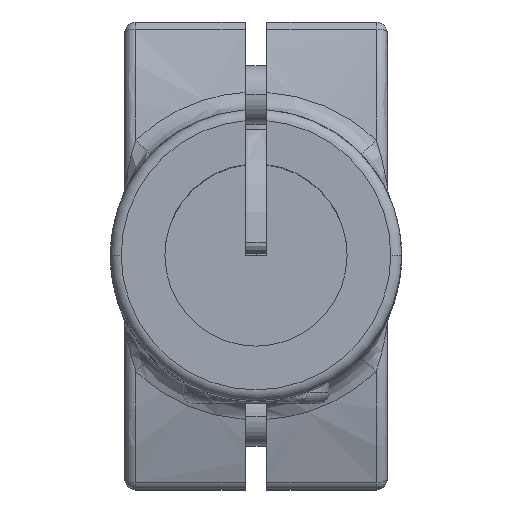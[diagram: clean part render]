
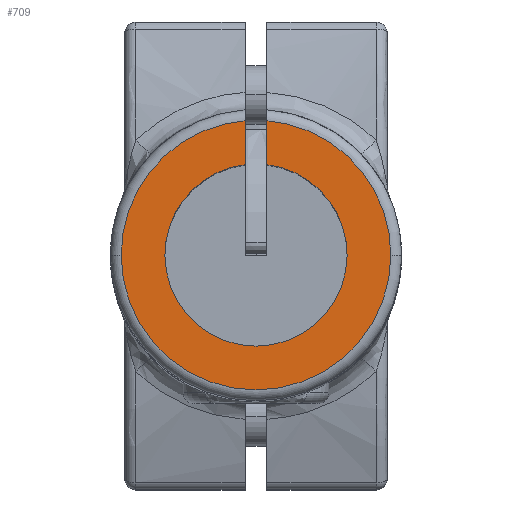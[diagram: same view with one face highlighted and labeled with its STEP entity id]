
A CAD part, top view. The second image highlights one B-rep face of the part: STEP entity #709.
In plain terms, the highlighted planar face has unit normal (0, 0, 1) as drawn and (0, 0, -1) by its records, which use the part's own axes.
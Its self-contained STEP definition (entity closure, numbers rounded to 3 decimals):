
#208 = EDGE_CURVE ( 'NONE', #1172, #15016, #11454, .T. ) ;
#272 = VECTOR ( 'NONE', #5805, 1000. ) ;
#709 = ADVANCED_FACE ( 'NONE', ( #5896 ), #2865, .F. ) ;
#1165 = CARTESIAN_POINT ( 'NONE',  ( 1.5, 0., 0. ) ) ;
#1172 = VERTEX_POINT ( 'NONE', #16247 ) ;
#1247 = DIRECTION ( 'NONE',  ( 1., 0., 0. ) ) ;
#1343 = VERTEX_POINT ( 'NONE', #16326 ) ;
#1616 = LINE ( 'NONE', #15050, #13394 ) ;
#1804 = CARTESIAN_POINT ( 'NONE',  ( 0., 0., 0. ) ) ;
#2193 = CARTESIAN_POINT ( 'NONE',  ( 0., 0., 0. ) ) ;
#2389 = CIRCLE ( 'NONE', #14877, 18.5 ) ;
#2426 = CIRCLE ( 'NONE', #4373, 12.5 ) ;
#2835 = AXIS2_PLACEMENT_3D ( 'NONE', #13351, #10163, #19603 ) ;
#2865 = PLANE ( 'NONE',  #13759 ) ;
#2878 = CARTESIAN_POINT ( 'NONE',  ( 12.5, 0., 0. ) ) ;
#3785 = AXIS2_PLACEMENT_3D ( 'NONE', #2193, #11239, #6462 ) ;
#4373 = AXIS2_PLACEMENT_3D ( 'NONE', #18301, #4565, #10774 ) ;
#4455 = CIRCLE ( 'NONE', #2835, 18.5 ) ;
#4565 = DIRECTION ( 'NONE',  ( 0., 0., 1. ) ) ;
#4583 = ORIENTED_EDGE ( 'NONE', *, *, #10077, .T. ) ;
#5531 = CARTESIAN_POINT ( 'NONE',  ( 0., 0., 0. ) ) ;
#5625 = DIRECTION ( 'NONE',  ( 0., 0., -1. ) ) ;
#5805 = DIRECTION ( 'NONE',  ( 0., -1., 0. ) ) ;
#5896 = FACE_OUTER_BOUND ( 'NONE', #14685, .T. ) ;
#6015 = CARTESIAN_POINT ( 'NONE',  ( -1.5, 12.41, 0. ) ) ;
#6462 = DIRECTION ( 'NONE',  ( -1., 0., 0. ) ) ;
#7436 = EDGE_CURVE ( 'NONE', #18547, #1172, #2389, .T. ) ;
#8054 = CIRCLE ( 'NONE', #8995, 12.5 ) ;
#8266 = CIRCLE ( 'NONE', #3785, 12.5 ) ;
#8442 = CARTESIAN_POINT ( 'NONE',  ( -18.5, 0., 0. ) ) ;
#8995 = AXIS2_PLACEMENT_3D ( 'NONE', #5531, #16244, #11240 ) ;
#9185 = ORIENTED_EDGE ( 'NONE', *, *, #12498, .T. ) ;
#9450 = CARTESIAN_POINT ( 'NONE',  ( -1.5, 18.439, 0. ) ) ;
#9943 = ORIENTED_EDGE ( 'NONE', *, *, #11393, .F. ) ;
#10077 = EDGE_CURVE ( 'NONE', #18287, #11043, #2426, .T. ) ;
#10163 = DIRECTION ( 'NONE',  ( 0., 0., -1. ) ) ;
#10231 = DIRECTION ( 'NONE',  ( 1., 0., 0. ) ) ;
#10540 = EDGE_CURVE ( 'NONE', #12862, #18287, #8266, .T. ) ;
#10774 = DIRECTION ( 'NONE',  ( -1., 0., 0. ) ) ;
#11002 = EDGE_CURVE ( 'NONE', #18547, #1343, #19544, .T. ) ;
#11043 = VERTEX_POINT ( 'NONE', #2878 ) ;
#11239 = DIRECTION ( 'NONE',  ( 0., 0., 1. ) ) ;
#11240 = DIRECTION ( 'NONE',  ( -1., 0., 0. ) ) ;
#11393 = EDGE_CURVE ( 'NONE', #12862, #16482, #1616, .T. ) ;
#11454 = CIRCLE ( 'NONE', #14019, 18.5 ) ;
#12123 = ORIENTED_EDGE ( 'NONE', *, *, #208, .T. ) ;
#12423 = CARTESIAN_POINT ( 'NONE',  ( -12.5, 0., 0. ) ) ;
#12498 = EDGE_CURVE ( 'NONE', #15016, #16482, #4455, .T. ) ;
#12842 = DIRECTION ( 'NONE',  ( 1., 0., 0. ) ) ;
#12862 = VERTEX_POINT ( 'NONE', #6015 ) ;
#12942 = DIRECTION ( 'NONE',  ( 0., 0., -1. ) ) ;
#13279 = ORIENTED_EDGE ( 'NONE', *, *, #7436, .T. ) ;
#13351 = CARTESIAN_POINT ( 'NONE',  ( 0., 0., 0. ) ) ;
#13394 = VECTOR ( 'NONE', #16570, 1000. ) ;
#13515 = CARTESIAN_POINT ( 'NONE',  ( 0., 0., 0. ) ) ;
#13680 = ORIENTED_EDGE ( 'NONE', *, *, #10540, .T. ) ;
#13759 = AXIS2_PLACEMENT_3D ( 'NONE', #19742, #16831, #1247 ) ;
#14019 = AXIS2_PLACEMENT_3D ( 'NONE', #1804, #12942, #12842 ) ;
#14685 = EDGE_LOOP ( 'NONE', ( #15507, #13279, #12123, #9185, #9943, #13680, #4583, #17257 ) ) ;
#14717 = EDGE_CURVE ( 'NONE', #11043, #1343, #8054, .T. ) ;
#14877 = AXIS2_PLACEMENT_3D ( 'NONE', #13515, #5625, #10231 ) ;
#15016 = VERTEX_POINT ( 'NONE', #8442 ) ;
#15050 = CARTESIAN_POINT ( 'NONE',  ( -1.5, 0., 0. ) ) ;
#15507 = ORIENTED_EDGE ( 'NONE', *, *, #11002, .F. ) ;
#16244 = DIRECTION ( 'NONE',  ( 0., 0., 1. ) ) ;
#16247 = CARTESIAN_POINT ( 'NONE',  ( 18.5, 0., 0. ) ) ;
#16326 = CARTESIAN_POINT ( 'NONE',  ( 1.5, 12.41, 0. ) ) ;
#16482 = VERTEX_POINT ( 'NONE', #9450 ) ;
#16570 = DIRECTION ( 'NONE',  ( 0., 1., 0. ) ) ;
#16831 = DIRECTION ( 'NONE',  ( 0., 0., 1. ) ) ;
#16837 = CARTESIAN_POINT ( 'NONE',  ( 1.5, 18.439, 0. ) ) ;
#17257 = ORIENTED_EDGE ( 'NONE', *, *, #14717, .T. ) ;
#18287 = VERTEX_POINT ( 'NONE', #12423 ) ;
#18301 = CARTESIAN_POINT ( 'NONE',  ( 0., 0., 0. ) ) ;
#18547 = VERTEX_POINT ( 'NONE', #16837 ) ;
#19544 = LINE ( 'NONE', #1165, #272 ) ;
#19603 = DIRECTION ( 'NONE',  ( 1., 0., 0. ) ) ;
#19742 = CARTESIAN_POINT ( 'NONE',  ( 0., 0., 0. ) ) ;
